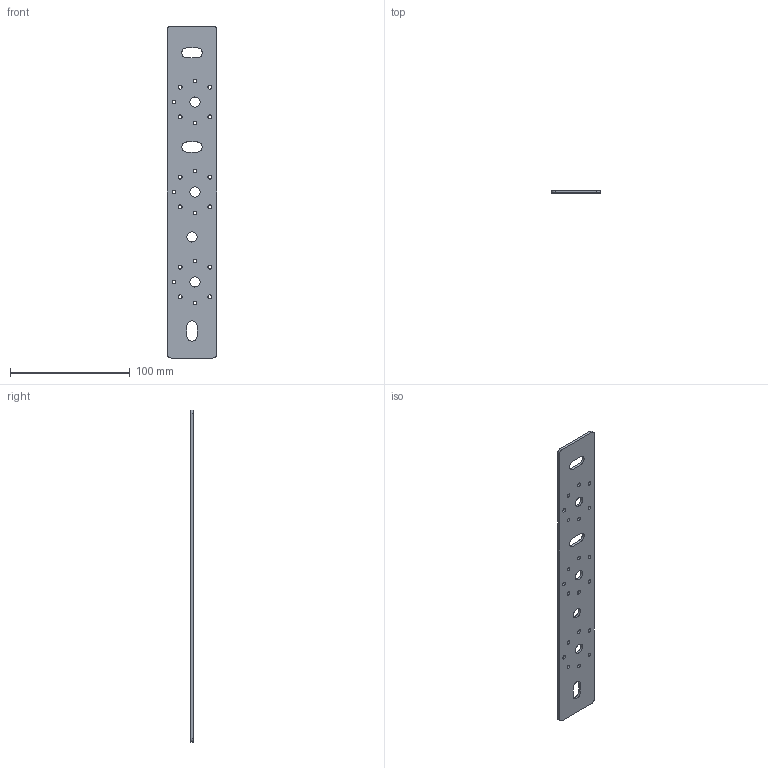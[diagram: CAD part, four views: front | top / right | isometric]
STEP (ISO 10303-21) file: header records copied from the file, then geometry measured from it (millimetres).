
FILE_DESCRIPTION(('STEP AP203'), '1');
FILE_NAME('覆.745422.002 - VT.PML 砑. 斁艜馰', '', ('UNSPECIFIED'), ('UNSPECIFIED'), 'C3D Converter', 'C3D Toolkit', '');
FILE_SCHEMA(('CONFIG_CONTROL_DESIGN'));
Length unit declared in the file: millimetre
Products named in the file (1): ВР.745422.002-02
Bounding box: 41 x 2 x 276.8 mm (x, y, z)
Volume: 21107.5 mm3; surface area: 23272 mm2
Topology: 1 solids, 1 shells, 47 faces, 240 edges, 216 vertices
Faces by surface type: cylinder 35, plane 12
Full cylindrical faces by diameter (mm): 3.242 x21, 8.5 x4
Entity records: 5431 total; most frequent: CARTESIAN_POINT 3188, DIRECTION 444, ORIENTED_EDGE 220, AXIS2_PLACEMENT_3D 202, CIRCLE 154, EDGE_LOOP 128, EDGE_CURVE 110, COLOUR_RGB 106
